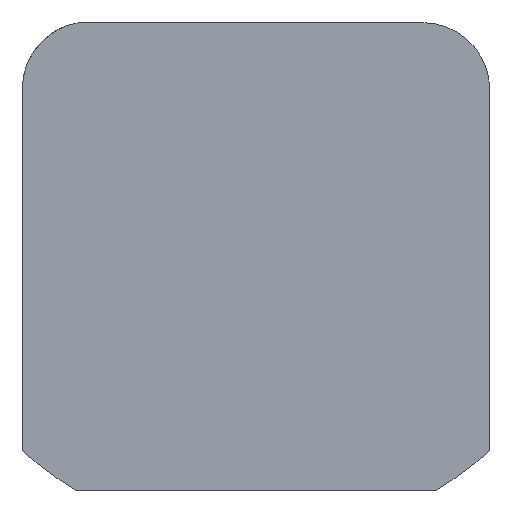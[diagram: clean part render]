
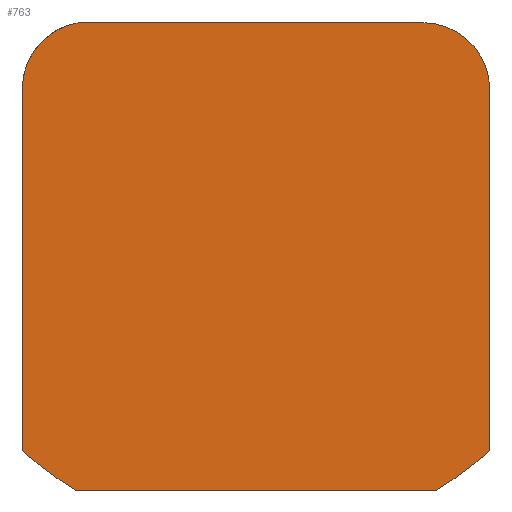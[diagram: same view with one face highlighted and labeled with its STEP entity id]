
A CAD part, front view. The second image highlights one B-rep face of the part: STEP entity #763.
In plain terms, the highlighted planar face has unit normal (0, -1, 0).
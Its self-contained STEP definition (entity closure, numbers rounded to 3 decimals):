
#3 = AXIS2_PLACEMENT_3D ( 'NONE', #708, #248, #784 ) ;
#13 = VECTOR ( 'NONE', #943, 1000. ) ;
#29 = VECTOR ( 'NONE', #890, 1000. ) ;
#37 = AXIS2_PLACEMENT_3D ( 'NONE', #927, #459, #995 ) ;
#41 = CARTESIAN_POINT ( 'NONE',  ( 17., 0., 1.174 ) ) ;
#48 = VERTEX_POINT ( 'NONE', #961 ) ;
#53 = LINE ( 'NONE', #810, #29 ) ;
#60 = VECTOR ( 'NONE', #891, 1000. ) ;
#68 = VERTEX_POINT ( 'NONE', #980 ) ;
#79 = DIRECTION ( 'NONE',  ( 0., 1., 0. ) ) ;
#90 = ORIENTED_EDGE ( 'NONE', *, *, #431, .T. ) ;
#92 = DIRECTION ( 'NONE',  ( 0., 1., 0. ) ) ;
#114 = ORIENTED_EDGE ( 'NONE', *, *, #118, .T. ) ;
#118 = EDGE_CURVE ( 'NONE', #333, #68, #414, .T. ) ;
#174 = CARTESIAN_POINT ( 'NONE',  ( 4.592, 0., 0. ) ) ;
#221 = EDGE_CURVE ( 'NONE', #744, #764, #755, .T. ) ;
#226 = LINE ( 'NONE', #249, #13 ) ;
#231 = ORIENTED_EDGE ( 'NONE', *, *, #273, .T. ) ;
#248 = DIRECTION ( 'NONE',  ( 0., -1., 0. ) ) ;
#249 = CARTESIAN_POINT ( 'NONE',  ( 3., 0., 1.174 ) ) ;
#273 = EDGE_CURVE ( 'NONE', #68, #937, #53, .T. ) ;
#333 = VERTEX_POINT ( 'NONE', #974 ) ;
#346 = VECTOR ( 'NONE', #975, 1000. ) ;
#363 = CARTESIAN_POINT ( 'NONE',  ( 0., 0., 0. ) ) ;
#414 = CIRCLE ( 'NONE', #3, 2. ) ;
#424 = FACE_OUTER_BOUND ( 'NONE', #743, .T. ) ;
#431 = EDGE_CURVE ( 'NONE', #937, #901, #735, .T. ) ;
#433 = CARTESIAN_POINT ( 'NONE',  ( 10., 0., 9. ) ) ;
#459 = DIRECTION ( 'NONE',  ( 0., -1., 0. ) ) ;
#473 = LINE ( 'NONE', #41, #60 ) ;
#479 = EDGE_CURVE ( 'NONE', #48, #764, #548, .T. ) ;
#483 = PLANE ( 'NONE',  #720 ) ;
#493 = ORIENTED_EDGE ( 'NONE', *, *, #221, .T. ) ;
#511 = DIRECTION ( 'NONE',  ( 0., 0., 1. ) ) ;
#548 = CIRCLE ( 'NONE', #676, 10.5 ) ;
#549 = CARTESIAN_POINT ( 'NONE',  ( 10., 0., 9. ) ) ;
#563 = CARTESIAN_POINT ( 'NONE',  ( 0., 0., 18. ) ) ;
#578 = CARTESIAN_POINT ( 'NONE',  ( 3., 0., 12.023 ) ) ;
#617 = DIRECTION ( 'NONE',  ( 0., 0., 1. ) ) ;
#633 = CARTESIAN_POINT ( 'NONE',  ( 15.408, 0., 0. ) ) ;
#637 = DIRECTION ( 'NONE',  ( 0., 0., 1. ) ) ;
#676 = AXIS2_PLACEMENT_3D ( 'NONE', #549, #79, #617 ) ;
#708 = CARTESIAN_POINT ( 'NONE',  ( 15., 0., 12. ) ) ;
#720 = AXIS2_PLACEMENT_3D ( 'NONE', #563, #92, #637 ) ;
#728 = AXIS2_PLACEMENT_3D ( 'NONE', #433, #971, #511 ) ;
#735 = CIRCLE ( 'NONE', #37, 2. ) ;
#743 = EDGE_LOOP ( 'NONE', ( #948, #114, #231, #90, #776, #921, #493, #839 ) ) ;
#744 = VERTEX_POINT ( 'NONE', #174 ) ;
#750 = EDGE_CURVE ( 'NONE', #901, #789, #226, .T. ) ;
#755 = LINE ( 'NONE', #363, #346 ) ;
#763 = ADVANCED_FACE ( 'NONE', ( #424 ), #483, .F. ) ;
#764 = VERTEX_POINT ( 'NONE', #633 ) ;
#776 = ORIENTED_EDGE ( 'NONE', *, *, #750, .T. ) ;
#784 = DIRECTION ( 'NONE',  ( 0., 0., 1. ) ) ;
#789 = VERTEX_POINT ( 'NONE', #863 ) ;
#810 = CARTESIAN_POINT ( 'NONE',  ( 3., 0., 14. ) ) ;
#839 = ORIENTED_EDGE ( 'NONE', *, *, #479, .F. ) ;
#863 = CARTESIAN_POINT ( 'NONE',  ( 3., 0., 1.174 ) ) ;
#885 = CARTESIAN_POINT ( 'NONE',  ( 4.699, 0., 14. ) ) ;
#890 = DIRECTION ( 'NONE',  ( -1., 0., 0. ) ) ;
#891 = DIRECTION ( 'NONE',  ( 0., 0., 1. ) ) ;
#901 = VERTEX_POINT ( 'NONE', #578 ) ;
#921 = ORIENTED_EDGE ( 'NONE', *, *, #954, .F. ) ;
#927 = CARTESIAN_POINT ( 'NONE',  ( 5., 0., 12.023 ) ) ;
#930 = CIRCLE ( 'NONE', #728, 10.5 ) ;
#937 = VERTEX_POINT ( 'NONE', #885 ) ;
#943 = DIRECTION ( 'NONE',  ( 0., 0., -1. ) ) ;
#948 = ORIENTED_EDGE ( 'NONE', *, *, #963, .T. ) ;
#954 = EDGE_CURVE ( 'NONE', #744, #789, #930, .T. ) ;
#961 = CARTESIAN_POINT ( 'NONE',  ( 17., 0., 1.174 ) ) ;
#963 = EDGE_CURVE ( 'NONE', #48, #333, #473, .T. ) ;
#971 = DIRECTION ( 'NONE',  ( 0., 1., 0. ) ) ;
#974 = CARTESIAN_POINT ( 'NONE',  ( 17., 0., 12. ) ) ;
#975 = DIRECTION ( 'NONE',  ( 1., 0., 0. ) ) ;
#980 = CARTESIAN_POINT ( 'NONE',  ( 15., 0., 14. ) ) ;
#995 = DIRECTION ( 'NONE',  ( 0., 0., 1. ) ) ;
